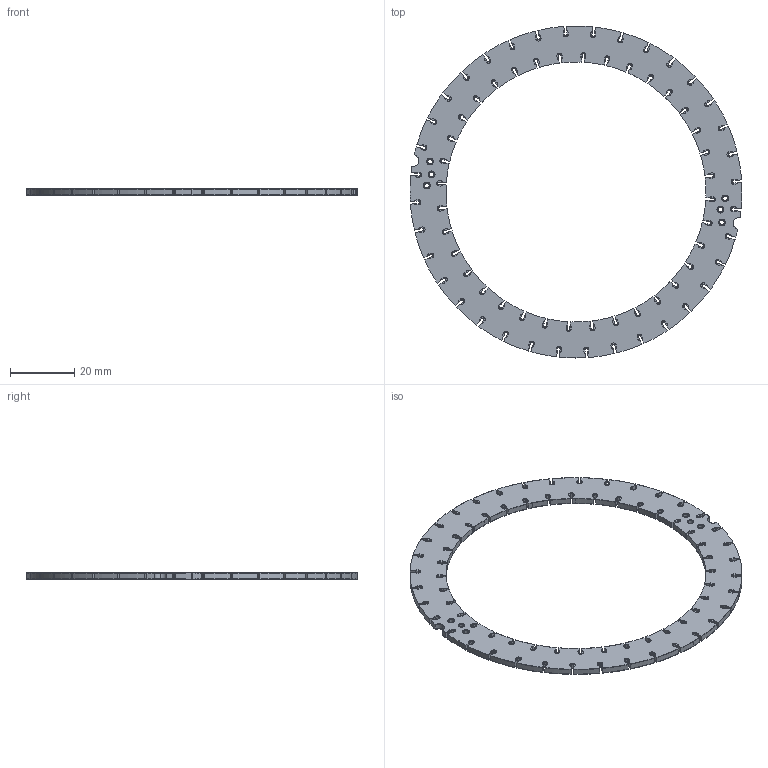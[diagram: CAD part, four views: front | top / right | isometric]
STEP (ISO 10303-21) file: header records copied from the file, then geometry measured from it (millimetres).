
FILE_DESCRIPTION(('STEP AP214'),'1');
FILE_NAME('21000015138_09.stp','2026-10-30T09:34:23',(' '),(' '),'Spatial InterOp 3D',' ',' ');
FILE_SCHEMA(('AUTOMOTIVE_DESIGN { 1 0 10303 214 1 1 1 1 }'));
Length unit declared in the file: millimetre
Products named in the file (7): SOLDERMASK_TOP (1 bodies); SOLDERMASK_TOP_Model_1_Inst; 21000015138_09; SOLDERMASK_BOTTOM (1 bodies); SOLDERMASK_BOTTOM_Model_1_Inst; DIELECTRIC (1 bodies); DIELECTRIC_Model_1_Inst
Assembly tree (6 placements, depth 3):
  21000015138_09
    SOLDERMASK_TOP (1 bodies)
      SOLDERMASK_TOP_Model_1_Inst
    SOLDERMASK_BOTTOM (1 bodies)
      SOLDERMASK_BOTTOM_Model_1_Inst
    DIELECTRIC (1 bodies)
      DIELECTRIC_Model_1_Inst
Bounding box: 103.5 x 103.5 x 1.95 mm (x, y, z)
Volume: 5981.9 mm3; surface area: 19989.3 mm2
Topology: 3 solids, 3 shells, 2826 faces, 8456 edges, 5636 vertices
Faces by surface type: cylinder 1665, plane 1161
Entity records: 96694 total; most frequent: DIRECTION 17454, CARTESIAN_POINT 16928, ORIENTED_EDGE 16912, EDGE_CURVE 8456, AXIS2_PLACEMENT_3D 6162, VERTEX_POINT 5636, LINE 5130, VECTOR 5130
